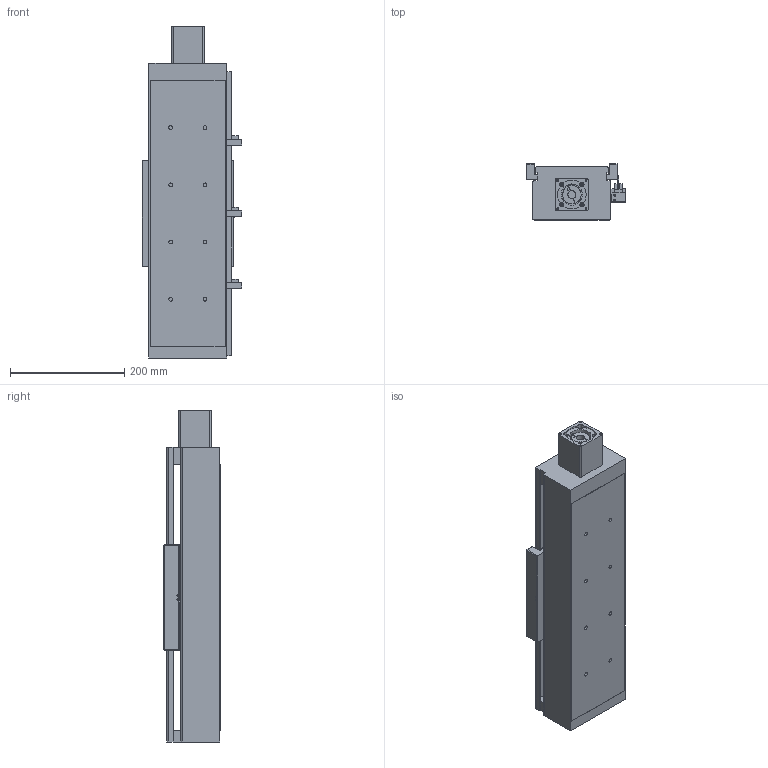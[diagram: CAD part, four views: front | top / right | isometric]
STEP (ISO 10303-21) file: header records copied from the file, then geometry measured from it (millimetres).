
FILE_DESCRIPTION((''),'2;1');
FILE_NAME('E:\libraries\UIA actuator library 2009\standard actuator\UIA136 ball screw 20\UIA136R15NDC stp file 27Apr16\UIA136R15NDC-250-R20_ _-M60-P13-C10-S.stp','2016-04-27T13:49:36',('h029'),(''),'Autodesk Inventor 11','Autodesk Inventor 11','');
FILE_SCHEMA(('AUTOMOTIVE_DESIGN { 1 0 10303 214 1 1 1 1 }'));
Length unit declared in the file: millimetre
Products named in the file (10): UIA136R15NDC-250; UIA136R15NDC-body; motor mount F60; SOH-32C; SOH-32C-3; SOH-32C-1; SOH-32C-2; Carriage; Sensor Switch; sensor rail
Assembly tree (9 placements, depth 3):
  UIA136R15NDC-250
    UIA136R15NDC-body
    motor mount F60
    SOH-32C
      SOH-32C-3
      SOH-32C-1
      SOH-32C-2
    Carriage
    Sensor Switch
    sensor rail
Bounding box: 174.5 x 98 x 580 mm (x, y, z)
Volume: 2624354.6 mm3; surface area: 654893.7 mm2
Topology: 8 solids, 8 shells, 467 faces, 1245 edges, 817 vertices
Faces by surface type: plane 311, bspline 114, cylinder 38, cone 4
Full cylindrical faces by diameter (mm): 2.459 x2, 3.242 x2, 4.5 x2, 5.5 x3, 7.5 x2, 10 x2, 12 x1, 14 x1, 32 x3, 37 x1, 41.9 x1, 42.1 x1, 43.5 x1
Entity records: 15315 total; most frequent: CARTESIAN_POINT 4370, ORIENTED_EDGE 2130, DIRECTION 2066, EDGE_CURVE 1065, VECTOR 790, LINE 790, VERTEX_POINT 752, EDGE_LOOP 673
